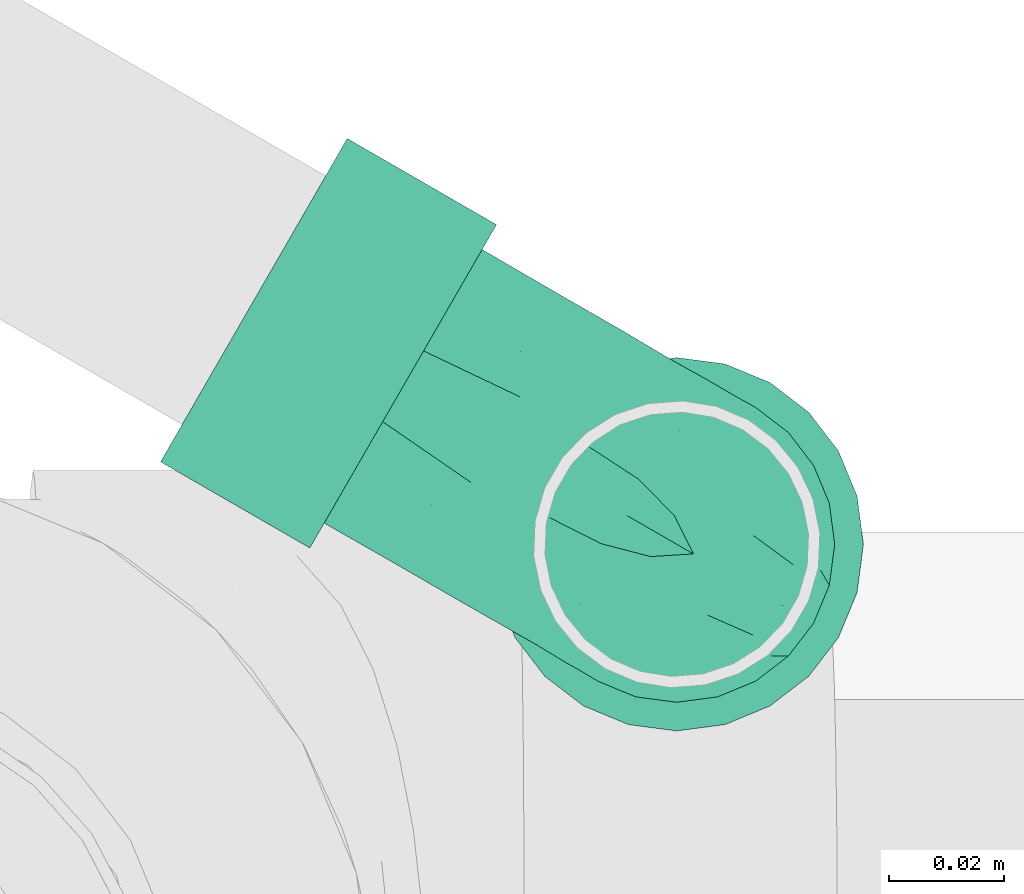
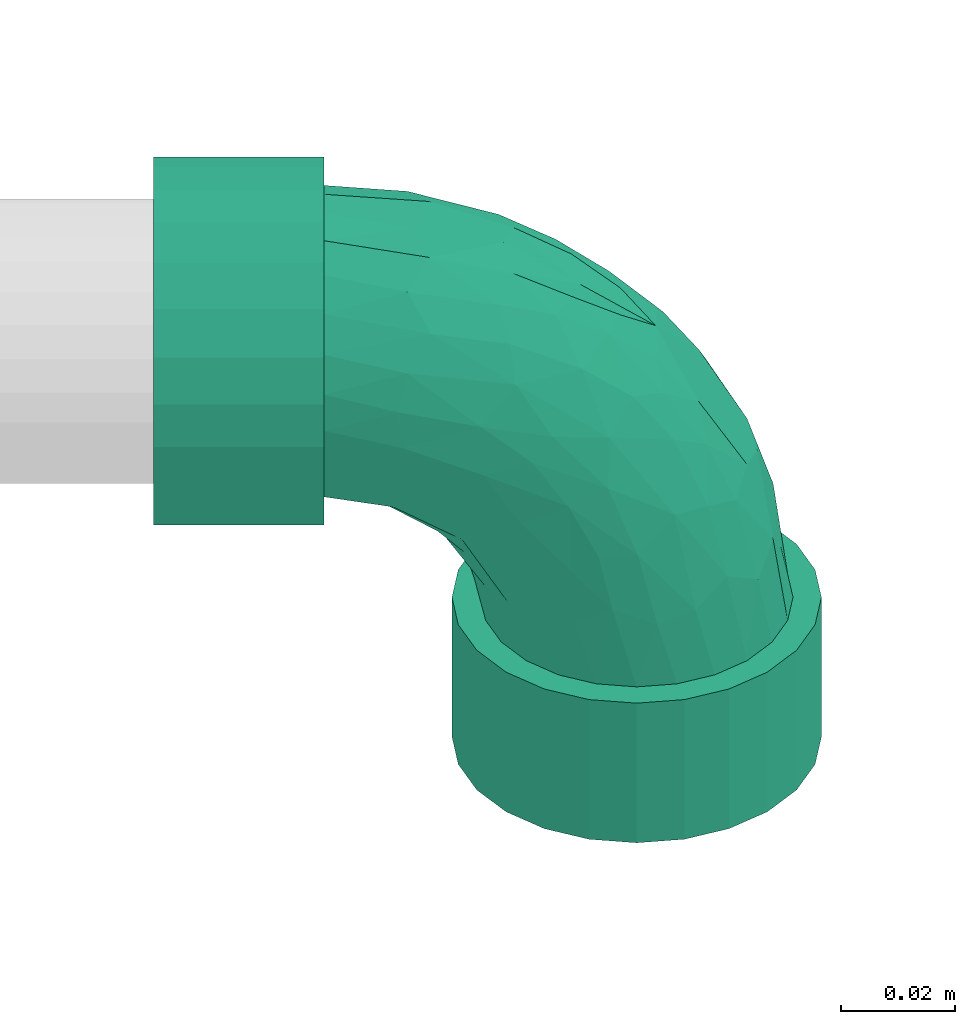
# One storey, part 61 of 78: 1 flow fitting.
"""IFC2X3 building model written with IfcOpenShell, lengths in millimetres."""

from ifc_helpers import new_model, entity, si_unit, converted_unit, derived_unit, direction, frame, origin_with_axes, place, context, subcontext, project, spatial, open_shell, surface_model, source, transform, mapped, type_object, element, save


model = new_model("IFC2X3")

# Units and contexts
model_context = context("Model", 3, precision=0.01, world=frame((0.0, 4.29681676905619e-09, 0.0)), true_north=direction((4.01073788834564e-13, 1.0)))
plan_context = context("Plan", 3, precision=0.01, world=frame((0.0, 4.29681676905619e-09, 0.0)), true_north=direction((4.01073788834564e-13, 1.0)))
body_context = subcontext(model_context, "Body", "Model", "MODEL_VIEW")
ifc_project = project(units=[converted_unit("PLANEANGLEUNIT", "DEGREE", entity("IfcPositiveLengthMeasure", 0.0174532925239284), si_unit("PLANEANGLEUNIT", "RADIAN"), dimensions=[0, 0, 0, 0, 0, 0, 0]), si_unit("AREAUNIT", "SQUARE_METRE"), si_unit("LENGTHUNIT", "METRE", prefix="MILLI"), si_unit("MASSUNIT", "GRAM", prefix="KILO"), si_unit("POWERUNIT", "WATT"), si_unit("PRESSUREUNIT", "PASCAL"), si_unit("FORCEUNIT", "NEWTON", prefix="KILO"), si_unit("ELECTRICVOLTAGEUNIT", "VOLT"), si_unit("ELECTRICCURRENTUNIT", "AMPERE"), si_unit("THERMODYNAMICTEMPERATUREUNIT", "DEGREE_CELSIUS"), si_unit("TIMEUNIT", "SECOND"), si_unit("VOLUMEUNIT", "CUBIC_METRE"), derived_unit("LINEARVELOCITYUNIT", [(si_unit("LENGTHUNIT", "METRE"), 1), (si_unit("TIMEUNIT", "SECOND"), -1)]), derived_unit("VOLUMETRICFLOWRATEUNIT", [(si_unit("VOLUMEUNIT", "CUBIC_METRE"), 1), (si_unit("TIMEUNIT", "SECOND"), -1)]), derived_unit("THERMALTRANSMITTANCEUNIT", [(si_unit("POWERUNIT", "WATT"), 1), (si_unit("THERMODYNAMICTEMPERATUREUNIT", "KELVIN"), -1), (si_unit("AREAUNIT", "SQUARE_METRE"), -1)]), derived_unit("SOUNDPRESSUREUNIT", [(si_unit("PRESSUREUNIT", "PASCAL"), 1)])], contexts=[model_context, plan_context])

# Site, building, storey
site_placement = place(None, frame((0.0, -4.29681676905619e-09, 0.0), z_axis=(0.0, 0.0, 1.0), x_axis=(1.0, 0.0, 0.0)))
site = spatial("IfcSite", under=ifc_project, at=site_placement, Name="ENGM", CompositionType="ELEMENT")
building_placement = place(site_placement, frame((0.0, 4.29681676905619e-09, 0.0), z_axis=(0.0, 0.0, 1.0), x_axis=(1.0, 0.0, 0.0)))
building = spatial("IfcBuilding", under=site, at=building_placement, Name="TH", CompositionType="ELEMENT")
storey_placement = place(building_placement, frame((0.0, 0.0, 205200.0), z_axis=(0.0, 0.0, 1.0), x_axis=(1.0, 0.0, 0.0)))
storey = spatial("IfcBuildingStorey", under=building, at=storey_placement, Name="Nivå D + 1,2 m", CompositionType="ELEMENT", Elevation=205200.0)

# Flow fitting
pipe_fitting_type = type_object("IfcPipeFittingType", Name="magi_sewer_bend_001 2", PredefinedType="BEND")
shared_shape = source(origin_with_axes(), body_context, "Body", "SurfaceModel", [
    surface_model("IfcShellBasedSurfaceModel", [(-9.55754, 27.04348, 27.45066), (-20.36966, 20.36965, 26.83181), (-16.37491, 12.01728, 27.35834), (-7.17828, 18.41879, 27.00219), (-13.6642, 5.04493, 25.67946), (-2.80938, 14.8575, 25.27217), (-9.34812, -6.58549, 16.94292), (-4.91229, 4.91229, 22.48358), (-21.24677, -6.67435, 22.84645), (-30.21907, 11.77954, 27.00787), (-26.98474, 6.73868, 27.48826), (-29.2357, 18.65947, 25.43589), (-25.45799, 29.04042, 22.59677), (-37.86876, 18.66748, 23.15784), (-34.1449, 34.14489, 10.27973), (-28.94725, 44.36378, 5.89962), (-34.46531, 36.06938, 4.83982), (-11.89325, 37.26318, 26.18991), (-3.769, 41.13613, 27.43246), (-15.69266, 28.46718, 26.43592), (-19.93739, 35.54391, 23.11297), (-21.90889, 26.62412, 25.02188), (-22.97264, 42.81438, 18.06659), (-28.98784, 30.7117, 19.4795), (-42.98895, 22.92462, 18.04737), (0.24678, 27.37883, 26.65446), (6.67435, 21.24677, 22.84645), (-43.47658, 29.29156, 6.0463), (-27.37883, -0.24678, 26.65446), (-38.50894, 4.21538, 27.45313), (-42.01121, -3.643, 27.02968), (-0.46092, 0.56746, 16.42692), (-31.18431, 41.25, 0.0), (-47.57863, 16.65353, 22.40766), (-27.04348, 9.55753, -27.45066), (-20.36966, 20.36965, -26.83181), (-12.01728, 16.3749, -27.35834), (-37.26318, 11.89324, -26.18991), (-41.13613, 3.76899, -27.43246), (-11.77955, 30.21906, -27.00787), (-6.73869, 26.98474, -27.48826), (-28.46718, 15.69265, -26.43592), (-42.01121, -3.643, -27.02968), (-27.37883, -0.24678, -26.65446), (-14.8575, 2.80938, -25.27217), (-21.24677, -6.67435, -22.84645), (-4.91229, 4.91229, -22.48358), (-9.34812, -6.58549, -16.94292), (6.67435, 21.24677, -22.84645), (-5.04493, 13.6642, -25.67946), (-10.78538, 42.39146, -25.97769), (-4.21539, 38.50894, -27.45313), (0.24678, 27.37883, -26.65446), (3.64299, 42.01121, -27.02968), (-26.62412, 21.90888, -25.02188), (-47.43569, 10.26525, -25.75866), (-0.46092, 0.56746, -16.42692), (-55.0, 16.25, 28.14582), (-55.0, 8.41162, 31.39259), (-55.0, 0.0, 32.5), (-55.0, -8.41162, 31.39259), (-55.0, -16.25, 28.14582), (-55.0, -32.5, 0.0), (-85.0, -32.5, 0.0), (-85.0, -31.39259, -8.41162), (-85.0, -16.25, -28.14582), (-55.0, -22.98097, -22.98097), (-85.0, -22.98097, -22.98097), (-85.0, 22.98097, -22.98097), (-55.0, 22.98097, -22.98097), (-85.0, 16.25, -28.14582), (-85.0, 31.39259, -8.41162), (-85.0, 32.5, 0.0), (-55.0, 32.5, 0.0), (-85.0, 31.39259, 8.41162), (-85.0, 28.14582, 16.25), (-55.0, 31.39259, 8.41162), (-55.0, 28.14582, 16.25), (-85.0, 22.98097, 22.98097), (-85.0, -22.98097, 22.98097), (-85.0, -28.14582, 16.25), (-55.0, -28.14582, 16.25), (-55.0, -31.39259, 8.41162), (-85.0, -31.39259, 8.41162), (-55.0, -27.5, 0.0), (-55.0, -26.56296, 7.11752), (-55.0, -26.56296, -7.11752), (-85.0, 0.0, -32.5), (-85.0, -8.41162, -31.39259), (-85.0, -28.14582, -16.25), (-85.0, 8.41162, -31.39259), (-85.0, 28.14582, -16.25), (-85.0, -16.25, 28.14582), (-85.0, -8.41162, 31.39259), (-85.0, 0.0, 32.5), (-85.0, 16.25, 28.14582), (-85.0, 8.41162, 31.39259), (-55.0, -22.98097, 22.98097), (-55.0, 22.98097, 22.98097), (-55.0, 31.39259, -8.41162), (-55.0, -16.25, -28.14582), (-55.0, -31.39259, -8.41162), (-55.0, -28.14582, -16.25), (-55.0, -8.41162, -31.39259), (-55.0, 0.0, -32.5), (-55.0, 28.14582, -16.25), (-55.0, 16.25, -28.14582), (-55.0, 8.41162, -31.39259), (-28.14582, 85.0, 16.25), (-32.5, 85.0, 0.0), (-31.39259, 85.0, 8.41162), (-8.41162, 85.0, 31.39259), (-22.98097, 85.0, 22.98097), (-28.14582, 85.0, -16.25), (-16.25, 85.0, 28.14582), (8.41162, 85.0, -31.39259), (-22.98097, 85.0, -22.98097), (-31.39259, 85.0, -8.41162), (-8.41162, 85.0, -31.39259), (-16.25, 85.0, -28.14582), (0.0, 85.0, 32.5), (8.41162, 85.0, 31.39259), (32.5, 85.0, 0.0), (16.25, 85.0, 28.14582), (28.14582, 85.0, 16.25), (22.98097, 85.0, 22.98097), (31.39259, 85.0, 8.41162), (22.98097, 85.0, -22.98097), (16.25, 85.0, -28.14582), (0.0, 85.0, -32.5), (31.39259, 85.0, -8.41162), (28.14582, 85.0, -16.25), (32.5, 55.0, 0.0), (31.39259, 55.0, 8.41162), (28.14582, 55.0, 16.25), (16.25, 55.0, 28.14582), (8.41162, 55.0, 31.39259), (22.98097, 55.0, 22.98097), (8.41162, 55.0, -31.39259), (31.39259, 55.0, -8.41162), (22.98097, 55.0, -22.98097), (28.14582, 55.0, -16.25), (16.25, 55.0, -28.14582), (-8.41162, 55.0, -31.39259), (0.0, 55.0, -32.5), (-8.41162, 55.0, 31.39259), (-22.98097, 55.0, 22.98097), (-16.25, 55.0, 28.14582), (-28.14582, 55.0, 16.25), (-31.39259, 55.0, 8.41162), (-22.98097, 55.0, -22.98097), (-16.25, 55.0, -28.14582), (-28.14582, 55.0, -16.25), (-32.5, 55.0, 0.0), (-31.39259, 55.0, -8.41162), (0.0, 55.0, 32.5), (-55.0, 13.75, -23.8157), (-55.0, 7.11752, -26.56296), (-55.0, 0.0, -27.5), (-55.0, -19.44544, -19.44544), (-55.0, 26.56296, -7.11752), (-55.0, 23.8157, -13.75), (-55.0, 19.44544, -19.44544), (-55.0, 23.8157, 13.75), (-55.0, -7.11752, -26.56296), (-55.0, -13.75, -23.8157), (-55.0, -23.8157, -13.75), (-55.0, 26.56296, 7.11752), (-55.0, -13.75, 23.8157), (-55.0, 13.75, 23.8157), (-55.0, 19.44544, 19.44544), (-55.0, 0.0, 27.5), (-55.0, 7.11752, 26.56296), (-55.0, -19.44544, 19.44544), (-55.0, -23.8157, 13.75), (-55.0, -7.11752, 26.56296), (-55.0, 27.5, 0.0), (0.0, 55.0, -27.5), (-7.11752, 55.0, -26.56296), (-13.75, 55.0, -23.8157), (19.44544, 55.0, -19.44544), (-23.8157, 55.0, -13.75), (-26.56296, 55.0, -7.11752), (-19.44544, 55.0, -19.44544), (-23.8157, 55.0, 13.75), (26.56296, 55.0, -7.11752), (13.75, 55.0, -23.8157), (7.11752, 55.0, -26.56296), (23.8157, 55.0, -13.75), (26.56296, 55.0, 7.11752), (27.5, 55.0, 0.0), (-26.56296, 55.0, 7.11752), (13.75, 55.0, 23.8157), (0.0, 55.0, 27.5), (-19.44544, 55.0, 19.44544), (-13.75, 55.0, 23.8157), (-7.11752, 55.0, 26.56296), (23.8157, 55.0, 13.75), (19.44544, 55.0, 19.44544), (7.11752, 55.0, 26.56296), (-27.5, 55.0, 0.0), (-40.34508, -21.3645, 15.43776), (-36.11265, -15.86568, 20.49181), (-39.21432, -24.36003, 0.0), (-24.30958, -17.51304, 13.87969), (-36.54887, -24.0023, 8.5767), (24.0023, 36.54887, 8.5767), (19.40474, 21.54255, 7.0497), (21.22006, 23.42862, 0.0), (-26.88142, 43.89149, 11.95246), (-40.42024, -10.39895, 24.74154), (-10.04616, -12.27818, 0.0), (-21.54255, -19.40474, 7.0497), (-23.42863, -21.22006, 0.0), (-2.36662, -4.64876, 12.39086), (-10.26525, 47.43568, 25.75866), (-43.90516, 26.87698, 11.95063), (-42.39145, 10.78537, 25.97769), (15.86568, 36.11265, 20.49181), (17.51304, 24.30958, 13.87969), (21.3645, 40.34508, 15.43776), (3.643, 42.0112, 27.02968), (10.39895, 40.42024, 24.74154), (24.36003, 39.21431, 0.0), (12.55215, 22.27414, 18.80888), (-16.80054, 46.11303, 22.52174), (-22.27414, -12.55215, 18.80888), (-28.52029, 36.45365, 15.56472), (-35.31962, 29.54913, 15.33464), (6.26221, 9.55167, 17.41895), (-13.05224, -12.27595, 12.90831), (1.63282, -3.57188, 7.44312), (8.35093, 4.898, 9.60387), (8.52925, 2.85464, 4.12118), (14.16423, 11.47104, 6.49556), (13.80727, 14.2658, 11.54179), (-41.25, 31.1843, 0.0), (-7.41178, -10.93595, 7.98446), (3.3363, -3.3363, 0.0), (12.27819, 10.04615, 0.0), (-22.27414, -12.55215, -18.80888), (-36.11265, -15.86568, -20.49181), (-24.30958, -17.51304, -13.87969), (-42.81437, 22.97263, -18.06658), (-46.11303, 16.80054, -22.52174), (-44.36378, 28.94724, -5.89962), (-36.54887, -24.0023, -8.5767), (-34.14489, 34.14489, -10.27973), (-43.89149, 26.88142, -11.95246), (-21.54255, -19.40474, -7.0497), (-35.5439, 19.93738, -23.11297), (-16.65353, 47.57862, -22.40766), (-22.92462, 42.98894, -18.04737), (10.39895, 40.42024, -24.74154), (-40.34508, -21.3645, -15.43776), (-40.42024, -10.39895, -24.74154), (-18.65947, 29.2357, -25.43589), (-29.29156, 43.47658, -6.0463), (-26.87699, 43.90517, -11.95063), (-36.06938, 34.4653, -4.83982), (-29.04041, 25.45798, -22.59677), (-18.66747, 37.86875, -23.15784), (21.3645, 40.34508, -15.43776), (15.86568, 36.11265, -20.49181), (8.52925, 2.85464, -4.12118), (14.16423, 11.47104, -6.49556), (-18.41878, 7.17827, -27.00219), (1.63282, -3.57188, -7.44311), (-7.41178, -10.93595, -7.98446), (-2.36662, -4.64876, -12.39086), (17.51304, 24.30958, -13.87969), (24.0023, 36.54887, -8.5767), (19.40474, 21.54255, -7.0497), (-36.45365, 28.52029, -15.56472), (12.55215, 22.27414, -18.80888), (13.80727, 14.2658, -11.54179), (6.26221, 9.55167, -17.41895), (-30.7117, 28.98784, -19.4795), (-29.54914, 35.31962, -15.33464), (-13.05224, -12.27595, -12.90831), (8.35093, 4.898, -9.60387)], [open_shell([[[0, 1, 2]], [[3, 4, 5]], [[6, 7, 8]], [[9, 10, 2]], [[11, 12, 13]], [[14, 15, 16]], [[17, 0, 18]], [[19, 20, 21]], [[20, 22, 23]], [[13, 23, 24]], [[17, 19, 0]], [[8, 7, 4]], [[25, 5, 26]], [[11, 21, 12]], [[14, 16, 27]], [[9, 2, 1]], [[25, 18, 0]], [[4, 2, 28]], [[0, 2, 3]], [[29, 30, 28]], [[31, 7, 6]], [[9, 29, 10]], [[11, 9, 1]], [[21, 11, 1]], [[19, 21, 1]], [[12, 21, 20]], [[15, 32, 16]], [[29, 28, 10]], [[28, 2, 10]], [[0, 19, 1]], [[20, 19, 17]], [[20, 23, 12]], [[13, 12, 23]], [[8, 4, 28]], [[5, 4, 7]], [[26, 5, 7]], [[3, 5, 25]], [[0, 3, 25]], [[4, 3, 2]], [[24, 33, 13]], [[34, 35, 36]], [[37, 34, 38]], [[39, 40, 36]], [[37, 41, 34]], [[42, 38, 43]], [[43, 44, 45]], [[45, 46, 47]], [[48, 46, 49]], [[39, 50, 51]], [[39, 36, 35]], [[43, 38, 34]], [[49, 36, 52]], [[51, 53, 52]], [[39, 51, 40]], [[41, 54, 35]], [[51, 52, 40]], [[52, 36, 40]], [[34, 41, 35]], [[48, 49, 52]], [[44, 49, 46]], [[45, 44, 46]], [[38, 55, 37]], [[46, 56, 47]], [[57, 58, 59]], [[59, 60, 61]], [[62, 63, 64]], [[65, 66, 67]], [[68, 69, 70]], [[71, 72, 73]], [[74, 75, 76]], [[73, 72, 74]], [[77, 75, 78]], [[79, 80, 81]], [[82, 80, 83]], [[83, 63, 62]], [[84, 85, 86]], [[65, 87, 88]], [[64, 65, 67]], [[65, 64, 68]], [[64, 67, 89]], [[68, 64, 74]], [[87, 70, 90]], [[70, 87, 68]], [[68, 71, 91]], [[68, 87, 65]], [[68, 74, 71]], [[64, 63, 83]], [[92, 83, 80]], [[92, 80, 79]], [[92, 93, 94]], [[83, 92, 74]], [[74, 92, 94]], [[74, 78, 75]], [[72, 71, 74]], [[94, 78, 74]], [[94, 95, 78]], [[96, 95, 94]], [[74, 64, 83]], [[59, 61, 81]], [[81, 82, 59]], [[81, 61, 97]], [[59, 82, 76]], [[59, 98, 57]], [[98, 76, 77]], [[76, 98, 59]], [[76, 99, 73]], [[76, 82, 100]], [[82, 101, 100]], [[66, 101, 102]], [[103, 76, 100]], [[100, 101, 66]], [[76, 103, 104]], [[99, 69, 105]], [[99, 76, 69]], [[106, 104, 107]], [[104, 106, 69]], [[104, 69, 76]], [[101, 82, 62]], [[99, 71, 73]], [[105, 91, 99]], [[70, 69, 106]], [[105, 69, 68]], [[90, 106, 107]], [[99, 91, 71]], [[90, 70, 106]], [[68, 91, 105]], [[87, 90, 107]], [[107, 104, 87]], [[88, 104, 103]], [[65, 103, 100]], [[89, 102, 101]], [[64, 101, 62]], [[103, 65, 88]], [[65, 100, 66]], [[66, 102, 67]], [[67, 102, 89]], [[89, 101, 64]], [[104, 88, 87]], [[82, 83, 62]], [[81, 80, 82]], [[92, 97, 61]], [[81, 97, 79]], [[93, 61, 60]], [[93, 92, 61]], [[79, 97, 92]], [[94, 93, 60]], [[60, 59, 94]], [[95, 57, 98]], [[75, 77, 76]], [[98, 77, 78]], [[74, 76, 73]], [[58, 95, 96]], [[58, 57, 95]], [[96, 94, 58]], [[98, 78, 95]], [[58, 94, 59]], [[108, 109, 110]], [[111, 108, 112]], [[113, 108, 111]], [[111, 112, 114]], [[111, 115, 116]], [[109, 113, 117]], [[109, 108, 113]], [[116, 118, 119]], [[113, 111, 116]], [[116, 115, 118]], [[111, 120, 121]], [[122, 121, 123]], [[124, 123, 125]], [[124, 126, 122]], [[124, 122, 123]], [[121, 122, 115]], [[115, 127, 128]], [[129, 118, 115]], [[127, 130, 131]], [[127, 115, 122]], [[130, 127, 122]], [[115, 111, 121]], [[132, 133, 134]], [[132, 134, 135]], [[135, 136, 132]], [[135, 134, 137]], [[132, 136, 138]], [[139, 140, 141]], [[139, 132, 140]], [[140, 138, 142]], [[132, 138, 140]], [[138, 143, 144]], [[138, 136, 145]], [[143, 138, 145]], [[146, 145, 147]], [[145, 148, 143]], [[148, 145, 146]], [[149, 150, 148]], [[143, 150, 151]], [[143, 148, 150]], [[152, 153, 154]], [[153, 152, 150]], [[149, 153, 150]], [[145, 136, 155]], [[143, 118, 144]], [[151, 119, 143]], [[113, 150, 152]], [[151, 150, 116]], [[117, 152, 154]], [[143, 119, 118]], [[118, 129, 144]], [[117, 113, 152]], [[116, 150, 113]], [[116, 119, 151]], [[109, 117, 154]], [[154, 153, 109]], [[110, 153, 149]], [[108, 149, 148]], [[114, 147, 145]], [[111, 145, 155]], [[149, 108, 110]], [[108, 148, 146]], [[108, 146, 112]], [[146, 147, 112]], [[112, 147, 114]], [[114, 145, 111]], [[155, 120, 111]], [[153, 110, 109]], [[136, 121, 155]], [[135, 123, 136]], [[124, 137, 134]], [[135, 137, 125]], [[126, 134, 133]], [[136, 123, 121]], [[121, 120, 155]], [[126, 124, 134]], [[125, 137, 124]], [[125, 123, 135]], [[122, 126, 133]], [[133, 132, 122]], [[131, 141, 140]], [[128, 142, 138]], [[140, 142, 127]], [[115, 138, 144]], [[139, 131, 130]], [[139, 141, 131]], [[130, 122, 139]], [[140, 127, 131]], [[142, 128, 127]], [[115, 128, 138]], [[144, 129, 115]], [[139, 122, 132]], [[156, 157, 158]], [[156, 158, 159]], [[156, 160, 161]], [[162, 156, 161]], [[156, 86, 163]], [[164, 165, 158]], [[165, 159, 158]], [[166, 86, 159]], [[159, 86, 156]], [[160, 156, 167]], [[163, 167, 156]], [[86, 168, 163]], [[169, 170, 171]], [[171, 170, 163]], [[172, 169, 171]], [[173, 168, 174]], [[174, 86, 85]], [[175, 171, 168]], [[168, 86, 174]], [[163, 168, 171]], [[176, 160, 167]], [[177, 178, 179]], [[180, 177, 179]], [[181, 182, 179]], [[181, 179, 183]], [[184, 185, 179]], [[177, 186, 187]], [[177, 180, 186]], [[180, 185, 188]], [[179, 185, 180]], [[185, 189, 190]], [[191, 179, 182]], [[191, 184, 179]], [[184, 192, 185]], [[193, 194, 195]], [[184, 194, 193]], [[195, 196, 193]], [[197, 192, 198]], [[189, 185, 197]], [[192, 193, 199]], [[197, 185, 192]], [[193, 192, 184]], [[200, 191, 182]], [[173, 201, 202]], [[85, 84, 203]], [[204, 201, 205]], [[206, 207, 208]], [[201, 173, 174]], [[85, 205, 174]], [[184, 209, 22]], [[202, 168, 173]], [[202, 210, 168]], [[171, 30, 29]], [[211, 212, 213]], [[210, 8, 28]], [[214, 31, 6]], [[163, 170, 24]], [[169, 33, 170]], [[175, 30, 171]], [[196, 215, 18]], [[171, 29, 172]], [[163, 24, 216]], [[170, 33, 24]], [[176, 167, 27]], [[167, 163, 216]], [[27, 216, 14]], [[172, 217, 169]], [[218, 198, 192]], [[219, 220, 218]], [[11, 217, 9]], [[168, 210, 175]], [[193, 221, 199]], [[206, 189, 197]], [[193, 196, 18]], [[218, 222, 26]], [[197, 220, 206]], [[223, 189, 206]], [[220, 197, 198]], [[222, 192, 199]], [[206, 208, 223]], [[207, 206, 219]], [[224, 218, 26]], [[32, 15, 200]], [[217, 172, 29]], [[15, 14, 209]], [[212, 205, 213]], [[22, 194, 184]], [[85, 203, 205]], [[225, 195, 194]], [[215, 196, 195]], [[22, 20, 225]], [[226, 8, 202]], [[222, 218, 192]], [[184, 191, 209]], [[209, 227, 22]], [[216, 228, 14]], [[221, 18, 25]], [[8, 210, 202]], [[213, 205, 203]], [[30, 210, 28]], [[226, 202, 204]], [[221, 222, 199]], [[190, 189, 223]], [[25, 26, 222]], [[26, 7, 229]], [[230, 6, 226]], [[214, 6, 230]], [[212, 204, 205]], [[214, 231, 232]], [[233, 234, 232]], [[224, 219, 218]], [[205, 201, 174]], [[202, 201, 204]], [[218, 220, 198]], [[206, 220, 219]], [[9, 217, 29]], [[33, 217, 13]], [[15, 209, 191]], [[14, 228, 227]], [[17, 215, 225]], [[228, 24, 23]], [[18, 221, 193]], [[222, 221, 25]], [[210, 30, 175]], [[229, 232, 235]], [[217, 11, 13]], [[200, 15, 191]], [[32, 236, 16]], [[16, 236, 27]], [[176, 27, 236]], [[167, 216, 27]], [[24, 228, 216]], [[227, 228, 23]], [[22, 227, 23]], [[14, 227, 209]], [[22, 225, 194]], [[17, 225, 20]], [[217, 33, 169]], [[225, 215, 195]], [[18, 215, 17]], [[212, 211, 237]], [[230, 212, 237]], [[232, 234, 235]], [[238, 237, 211]], [[230, 226, 204]], [[232, 231, 233]], [[239, 208, 207]], [[6, 8, 226]], [[26, 229, 224]], [[235, 224, 229]], [[212, 230, 204]], [[214, 230, 237]], [[231, 214, 237]], [[31, 232, 229]], [[237, 238, 231]], [[233, 231, 238]], [[238, 239, 233]], [[234, 239, 207]], [[239, 234, 233]], [[235, 207, 219]], [[207, 235, 234]], [[235, 219, 224]], [[232, 31, 214]], [[7, 31, 229]], [[240, 241, 45]], [[241, 240, 242]], [[161, 243, 162]], [[162, 244, 156]], [[236, 245, 176]], [[203, 86, 246]], [[245, 247, 248]], [[246, 249, 213]], [[54, 41, 250]], [[183, 251, 252]], [[253, 48, 52]], [[156, 55, 157]], [[246, 166, 254]], [[255, 165, 164]], [[246, 213, 203]], [[161, 160, 248]], [[166, 159, 254]], [[256, 50, 39]], [[42, 164, 158]], [[166, 246, 86]], [[242, 254, 241]], [[38, 158, 157]], [[257, 258, 247]], [[243, 250, 244]], [[245, 259, 247]], [[200, 182, 257]], [[256, 260, 261]], [[258, 182, 181]], [[177, 53, 51]], [[241, 159, 165]], [[183, 179, 251]], [[50, 179, 178]], [[180, 262, 263]], [[177, 187, 53]], [[239, 264, 265]], [[248, 243, 161]], [[183, 252, 181]], [[157, 55, 38]], [[186, 263, 253]], [[255, 241, 165]], [[177, 51, 178]], [[266, 49, 44]], [[267, 268, 269]], [[188, 262, 180]], [[263, 186, 180]], [[270, 262, 271]], [[249, 246, 242]], [[190, 223, 185]], [[185, 223, 271]], [[272, 271, 208]], [[185, 271, 188]], [[50, 178, 51]], [[248, 273, 243]], [[274, 275, 276]], [[252, 258, 181]], [[186, 253, 187]], [[241, 255, 45]], [[250, 243, 277]], [[261, 277, 252]], [[258, 278, 247]], [[42, 255, 164]], [[84, 86, 203]], [[43, 45, 255]], [[48, 253, 263]], [[208, 271, 223]], [[53, 253, 52]], [[274, 263, 270]], [[46, 48, 276]], [[242, 240, 279]], [[276, 56, 46]], [[211, 249, 268]], [[269, 268, 279]], [[272, 270, 271]], [[241, 254, 159]], [[246, 254, 242]], [[271, 262, 188]], [[263, 262, 270]], [[251, 50, 261]], [[245, 248, 160]], [[247, 278, 273]], [[256, 54, 260]], [[37, 55, 244]], [[278, 252, 277]], [[247, 259, 257]], [[34, 36, 266]], [[38, 42, 158]], [[255, 42, 43]], [[253, 53, 187]], [[274, 48, 263]], [[280, 269, 56]], [[256, 39, 35]], [[54, 256, 35]], [[50, 256, 261]], [[260, 54, 250]], [[176, 245, 160]], [[245, 236, 259]], [[236, 32, 259]], [[259, 32, 257]], [[200, 257, 32]], [[182, 258, 257]], [[250, 41, 37]], [[252, 278, 258]], [[273, 278, 277]], [[243, 273, 277]], [[247, 273, 248]], [[243, 244, 162]], [[37, 244, 250]], [[250, 277, 260]], [[261, 260, 277]], [[266, 44, 43]], [[34, 266, 43]], [[49, 266, 36]], [[50, 251, 179]], [[252, 251, 261]], [[244, 55, 156]], [[279, 249, 242]], [[268, 238, 211]], [[238, 267, 264]], [[213, 249, 211]], [[272, 265, 275]], [[272, 208, 239]], [[45, 47, 240]], [[279, 240, 47]], [[275, 274, 270]], [[276, 48, 274]], [[269, 279, 47]], [[249, 279, 268]], [[56, 269, 47]], [[267, 269, 280]], [[264, 267, 280]], [[238, 268, 267]], [[265, 264, 280]], [[239, 238, 264]], [[275, 265, 280]], [[239, 265, 272]], [[276, 275, 280]], [[272, 275, 270]], [[280, 56, 276]]])]),
])
flow_fitting_placement = place(storey_placement, frame((899250.50163, 483351.12945, 5317.07483), z_axis=(-0.500000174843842, -0.866025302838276, 0.0), x_axis=(0.0, 0.0, 1.0)))
element("IfcFlowFitting", 1, at=flow_fitting_placement, inside=storey, type_object=pipe_fitting_type, Name="magi_sewer_bend_001 2", context=body_context, shape_type="MappedRepresentation", body=[
    mapped(shared_shape, transform((0.0, 0.0, 0.0), scale=1.0)),
])

save(model, "model.ifc")
